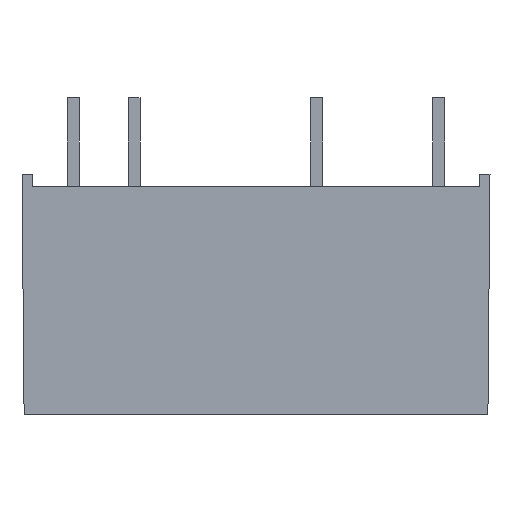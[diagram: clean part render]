
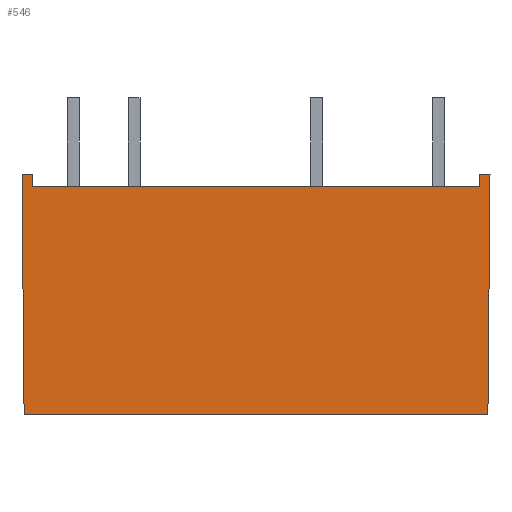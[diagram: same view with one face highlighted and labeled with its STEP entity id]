
A CAD part, front view. The second image highlights one B-rep face of the part: STEP entity #546.
In plain terms, the highlighted planar face has unit normal (0, -1, -0.009).
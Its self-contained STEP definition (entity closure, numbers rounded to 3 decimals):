
#44=FACE_OUTER_BOUND('',#78,.T.);
#78=EDGE_LOOP('',(#463,#464,#465,#466,#467,#468,#469,#470));
#132=LINE('',#823,#204);
#137=LINE('',#832,#209);
#140=LINE('',#838,#212);
#143=LINE('',#844,#215);
#144=LINE('',#847,#216);
#147=LINE('',#853,#219);
#148=LINE('',#855,#220);
#149=LINE('',#856,#221);
#204=VECTOR('',#676,0.5);
#209=VECTOR('',#683,18.65);
#212=VECTOR('',#688,0.5);
#215=VECTOR('',#693,0.425);
#216=VECTOR('',#696,0.425);
#219=VECTOR('',#701,10.001);
#220=VECTOR('',#702,19.325);
#221=VECTOR('',#703,10.001);
#259=VERTEX_POINT('',#819);
#261=VERTEX_POINT('',#822);
#264=VERTEX_POINT('',#830);
#266=VERTEX_POINT('',#836);
#268=VERTEX_POINT('',#842);
#269=VERTEX_POINT('',#846);
#271=VERTEX_POINT('',#852);
#272=VERTEX_POINT('',#854);
#324=EDGE_CURVE('',#261,#259,#132,.T.);
#329=EDGE_CURVE('',#259,#264,#137,.T.);
#332=EDGE_CURVE('',#264,#266,#140,.T.);
#335=EDGE_CURVE('',#266,#268,#143,.T.);
#336=EDGE_CURVE('',#269,#261,#144,.T.);
#339=EDGE_CURVE('',#271,#268,#147,.F.);
#340=EDGE_CURVE('',#271,#272,#148,.F.);
#341=EDGE_CURVE('',#272,#269,#149,.T.);
#463=ORIENTED_EDGE('',*,*,#324,.T.);
#464=ORIENTED_EDGE('',*,*,#329,.T.);
#465=ORIENTED_EDGE('',*,*,#332,.T.);
#466=ORIENTED_EDGE('',*,*,#335,.T.);
#467=ORIENTED_EDGE('',*,*,#339,.F.);
#468=ORIENTED_EDGE('',*,*,#340,.T.);
#469=ORIENTED_EDGE('',*,*,#341,.T.);
#470=ORIENTED_EDGE('',*,*,#336,.T.);
#516=PLANE('',#578);
#546=ADVANCED_FACE('',(#44),#516,.T.);
#578=AXIS2_PLACEMENT_3D('',#851,#699,#700);
#676=DIRECTION('',(0.,0.009,-1.));
#683=DIRECTION('',(-1.,0.,0.));
#688=DIRECTION('',(0.,-0.009,1.));
#693=DIRECTION('',(-1.,0.,0.));
#696=DIRECTION('',(-1.,0.,0.));
#699=DIRECTION('center_axis',(0.,-1.,-0.009));
#700=DIRECTION('ref_axis',(0.,0.009,-1.));
#701=DIRECTION('',(0.009,0.009,-1.));
#702=DIRECTION('',(-1.,0.,0.));
#703=DIRECTION('',(0.009,-0.009,1.));
#819=CARTESIAN_POINT('',(9.325,-3.146,9.5));
#822=CARTESIAN_POINT('',(9.325,-3.15,10.));
#823=CARTESIAN_POINT('',(9.325,-3.106,5.));
#830=CARTESIAN_POINT('',(-9.325,-3.146,9.5));
#832=CARTESIAN_POINT('',(4.875,-3.146,9.5));
#836=CARTESIAN_POINT('',(-9.325,-3.15,10.));
#838=CARTESIAN_POINT('',(-9.325,-3.106,4.973));
#842=CARTESIAN_POINT('',(-9.75,-3.15,10.));
#844=CARTESIAN_POINT('',(-9.75,-3.15,10.));
#846=CARTESIAN_POINT('',(9.75,-3.15,10.));
#847=CARTESIAN_POINT('',(-9.75,-3.15,10.));
#851=CARTESIAN_POINT('Origin',(9.75,-3.063,0.));
#852=CARTESIAN_POINT('',(-9.663,-3.063,0.));
#853=CARTESIAN_POINT('',(-9.662,-3.062,-0.084));
#854=CARTESIAN_POINT('',(9.663,-3.063,0.));
#855=CARTESIAN_POINT('',(4.875,-3.063,0.));
#856=CARTESIAN_POINT('',(9.663,-3.063,-0.026));
